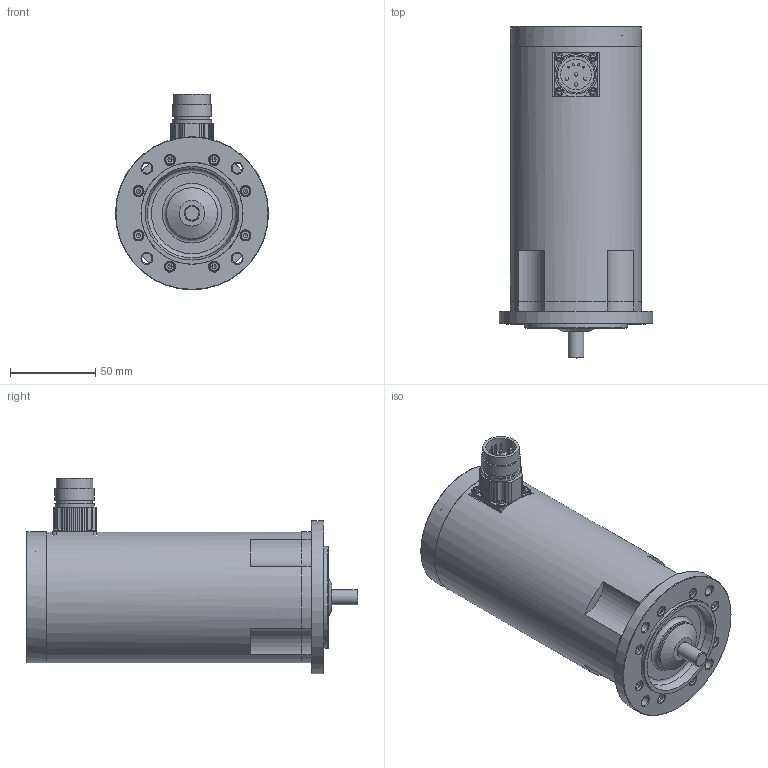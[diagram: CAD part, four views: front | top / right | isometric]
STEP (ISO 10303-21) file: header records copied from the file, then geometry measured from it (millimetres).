
FILE_DESCRIPTION(/* description */ (''),/* implementation_level */ '2;1');
FILE_NAME(/* name */ 'ksa_2x8e',/* time_stamp */ '2007-03-13T07:45:27+01:00',/* author */ (''),/* organization */ (''),/* preprocessor_version */ 'ST-DEVELOPER v8',/* originating_system */ 'UNIGRAPHICS SOLUTIONS - UNIGRAPHICS 18.0',/* authorisation */ '');
FILE_SCHEMA (('AUTOMOTIVE_DESIGN { 1 2 10303 214 0 1 1 1 }'));
Length unit declared in the file: millimetre
Products named in the file (11): din912-m4x12_A; din912-m3x20_A; iso1580-m2.5x6_A; 06331002_0; DIN3760_org_A12x24x7_0; 014260_0; 112069_0; 112068_0; Rotor_SA 24.. E_0; Gehaeuse_SA 24.. E_0; KSA246_E_0
Assembly tree (23 placements, depth 2):
  KSA246_E_0
    Gehaeuse_SA 24.. E_0
    Rotor_SA 24.. E_0
    112068_0
    112069_0
    014260_0
    DIN3760_org_A12x24x7_0
    06331002_0
    iso1580-m2.5x6_A  x4
    din912-m3x20_A  x8
    din912-m4x12_A  x4
Bounding box: 90 x 195 x 115 mm (x, y, z)
Volume: 412667.1 mm3; surface area: 124166.3 mm2
Topology: 23 solids, 23 shells, 592 faces, 1340 edges, 834 vertices
Faces by surface type: plane 277, cylinder 184, cone 90, torus 33, sphere 8
Full cylindrical faces by diameter (mm): 1 x4, 1.948 x4, 2 x4, 2.5 x12, 2.7 x4, 3 x12, 3.013 x1, 3.4 x8, 4 x4, 4.5 x4, 5.5 x8, 6 x12, 7 x4, 8 x4, 8.52 x1, 8.9 x1, 9 x1, 12 x2, 12.3 x1, 18 x1, 20 x3, 21 x2, 21.5 x1, 23 x3, 24 x2, 26 x1, 28 x1, 30 x2, 60 x1, 61 x3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
Entity records: 8966 total; most frequent: DIRECTION 1682, CARTESIAN_POINT 1459, ORIENTED_EDGE 1124, AXIS2_PLACEMENT_3D 766, EDGE_LOOP 581, EDGE_CURVE 562, VERTEX_POINT 444, CIRCLE 406
